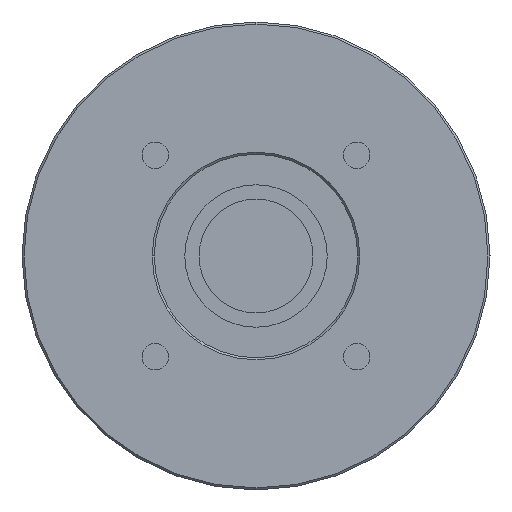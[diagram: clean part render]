
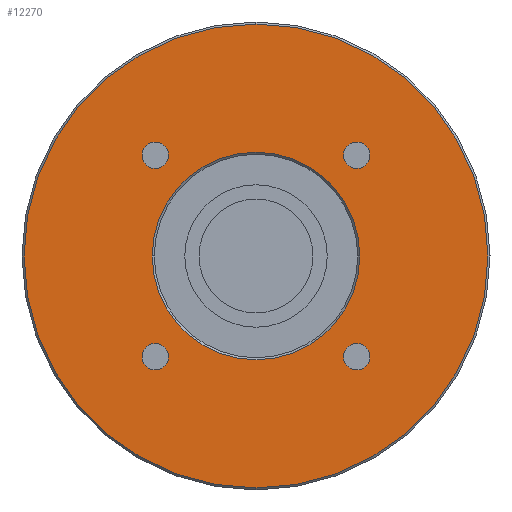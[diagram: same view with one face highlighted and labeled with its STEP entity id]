
A CAD part, left-side view. The second image highlights one B-rep face of the part: STEP entity #12270.
In plain terms, the highlighted planar face has unit normal (-1, 0, 0) as drawn and (0, 0, -1) by its records, which use the part's own axes.
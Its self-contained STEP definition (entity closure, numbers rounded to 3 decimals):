
#9130=CARTESIAN_POINT('',(27.999,24.749,-66.4));
#9140=VERTEX_POINT('',#9130);
#9170=CARTESIAN_POINT('',(24.749,24.749,-66.4));
#9180=DIRECTION('',(0.,0.,-1.));
#9190=DIRECTION('',(1.,0.,0.));
#9200=AXIS2_PLACEMENT_3D('',#9170,#9180,#9190);
#9210=CIRCLE('',#9200,3.25);
#9220=CARTESIAN_POINT('',(21.499,24.749,-66.4));
#9230=VERTEX_POINT('',#9220);
#9240=EDGE_CURVE('',#9230,#9140,#9210,.T.);
#11200=CARTESIAN_POINT('',(0.,57.,-66.4));
#11210=VERTEX_POINT('',#11200);
#11240=CARTESIAN_POINT('',(0.,0.,
-66.4));
#11250=DIRECTION('',(0.,0.,-1.));
#11260=DIRECTION('',(1.,0.,0.));
#11270=AXIS2_PLACEMENT_3D('',#11240,#11250,#11260);
#11280=CIRCLE('',#11270,57.);
#11290=CARTESIAN_POINT('',(57.,0.,-66.4));
#11300=VERTEX_POINT('',#11290);
#11310=EDGE_CURVE('',#11210,#11300,#11280,.T.);
#11330=CARTESIAN_POINT('',(0.,-57.,-66.4));
#11340=VERTEX_POINT('',#11330);
#11350=EDGE_CURVE('',#11300,#11340,#11280,.T.);
#11510=CARTESIAN_POINT('',(0.,0.,
-66.4));
#11520=DIRECTION('',(0.,0.,-1.));
#11530=DIRECTION('',(1.,0.,0.));
#11540=AXIS2_PLACEMENT_3D('',#11510,#11520,#11530);
#11550=PLANE('',#11540);
#11560=EDGE_CURVE('',#11340,#11210,#11280,.T.);
#11570=ORIENTED_EDGE('',*,*,#11560,.T.);
#11580=ORIENTED_EDGE('',*,*,#11350,.T.);
#11590=ORIENTED_EDGE('',*,*,#11310,.T.);
#11600=EDGE_LOOP('',(#11590,#11580,#11570));
#11610=FACE_OUTER_BOUND('',#11600,.T.);
#11620=CARTESIAN_POINT('',(0.,0.,
-66.4));
#11630=DIRECTION('',(0.,0.,-1.));
#11640=DIRECTION('',(1.,0.,0.));
#11650=AXIS2_PLACEMENT_3D('',#11620,#11630,#11640);
#11660=CIRCLE('',#11650,25.5);
#11670=CARTESIAN_POINT('',(25.5,0.,-66.4));
#11680=VERTEX_POINT('',#11670);
#11690=CARTESIAN_POINT('',(-25.5,0.,-66.4));
#11700=VERTEX_POINT('',#11690);
#11710=EDGE_CURVE('',#11680,#11700,#11660,.T.);
#11720=ORIENTED_EDGE('',*,*,#11710,.F.);
#11730=EDGE_CURVE('',#11700,#11680,#11660,.T.);
#11740=ORIENTED_EDGE('',*,*,#11730,.F.);
#11750=EDGE_LOOP('',(#11740,#11720));
#11760=FACE_BOUND('',#11750,.T.);
#11770=CARTESIAN_POINT('',(24.749,-24.749,-66.4));
#11780=DIRECTION('',(0.,0.,-1.));
#11790=DIRECTION('',(1.,0.,0.));
#11800=AXIS2_PLACEMENT_3D('',#11770,#11780,#11790);
#11810=CIRCLE('',#11800,3.25);
#11820=CARTESIAN_POINT('',(27.999,-24.749,-66.4));
#11830=VERTEX_POINT('',#11820);
#11840=CARTESIAN_POINT('',(21.499,-24.749,-66.4));
#11850=VERTEX_POINT('',#11840);
#11860=EDGE_CURVE('',#11830,#11850,#11810,.T.);
#11870=ORIENTED_EDGE('',*,*,#11860,.F.);
#11880=EDGE_CURVE('',#11850,#11830,#11810,.T.);
#11890=ORIENTED_EDGE('',*,*,#11880,.F.);
#11900=EDGE_LOOP('',(#11890,#11870));
#11910=FACE_BOUND('',#11900,.T.);
#11920=EDGE_CURVE('',#9140,#9230,#9210,.T.);
#11930=ORIENTED_EDGE('',*,*,#11920,.F.);
#11940=ORIENTED_EDGE('',*,*,#9240,.F.);
#11950=EDGE_LOOP('',(#11940,#11930));
#11960=FACE_BOUND('',#11950,.T.);
#11970=CARTESIAN_POINT('',(-24.749,24.749,-66.4));
#11980=DIRECTION('',(0.,0.,-1.));
#11990=DIRECTION('',(1.,0.,0.));
#12000=AXIS2_PLACEMENT_3D('',#11970,#11980,#11990);
#12010=CIRCLE('',#12000,3.25);
#12020=CARTESIAN_POINT('',(-21.499,24.749,-66.4));
#12030=VERTEX_POINT('',#12020);
#12040=CARTESIAN_POINT('',(-27.999,24.749,-66.4));
#12050=VERTEX_POINT('',#12040);
#12060=EDGE_CURVE('',#12030,#12050,#12010,.T.);
#12070=ORIENTED_EDGE('',*,*,#12060,.F.);
#12080=EDGE_CURVE('',#12050,#12030,#12010,.T.);
#12090=ORIENTED_EDGE('',*,*,#12080,.F.);
#12100=EDGE_LOOP('',(#12090,#12070));
#12110=FACE_BOUND('',#12100,.T.);
#12120=CARTESIAN_POINT('',(-24.749,-24.749,-66.4));
#12130=DIRECTION('',(0.,0.,-1.));
#12140=DIRECTION('',(1.,0.,0.));
#12150=AXIS2_PLACEMENT_3D('',#12120,#12130,#12140);
#12160=CIRCLE('',#12150,3.25);
#12170=CARTESIAN_POINT('',(-21.499,-24.749,-66.4));
#12180=VERTEX_POINT('',#12170);
#12190=CARTESIAN_POINT('',(-27.999,-24.749,-66.4));
#12200=VERTEX_POINT('',#12190);
#12210=EDGE_CURVE('',#12180,#12200,#12160,.T.);
#12220=ORIENTED_EDGE('',*,*,#12210,.F.);
#12230=EDGE_CURVE('',#12200,#12180,#12160,.T.);
#12240=ORIENTED_EDGE('',*,*,#12230,.F.);
#12250=EDGE_LOOP('',(#12240,#12220));
#12260=FACE_BOUND('',#12250,.T.);
#12270=ADVANCED_FACE('',(#11610,#11760,#11910,#11960,#12110,#12260),
#11550,.T.);
